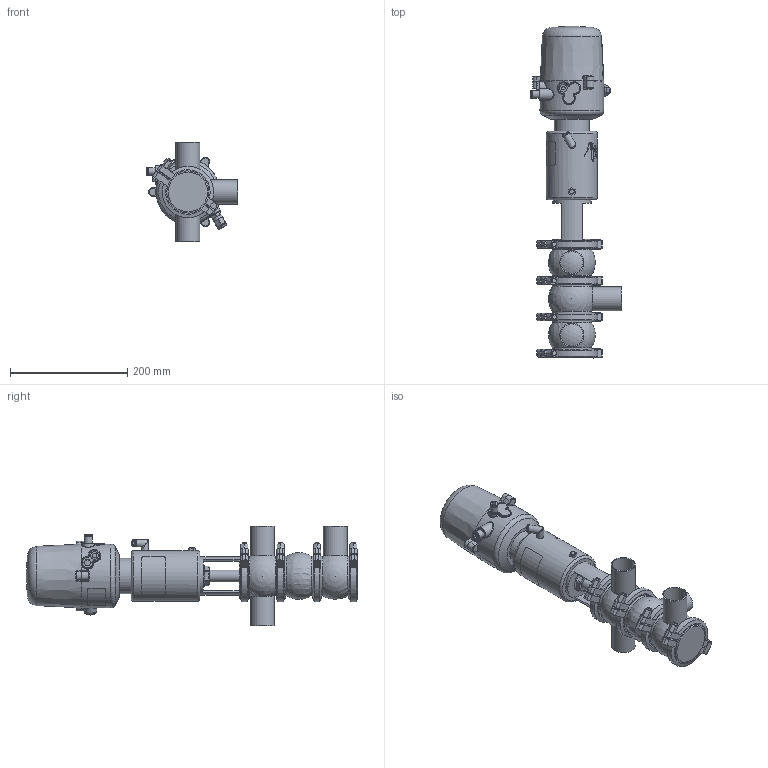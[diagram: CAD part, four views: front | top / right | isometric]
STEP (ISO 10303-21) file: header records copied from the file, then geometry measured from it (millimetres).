
FILE_DESCRIPTION (( 'STEP AP214' ), '1' );
FILE_NAME ('INNOVA L P W DIN 040 T1 AS NC & C-TOP S_10.241.16.0052.STEP', '2024-08-06T12:58:50', ( '' ), ( '' ), 'SwSTEP 2.0', 'SolidWorks 2023', '' );
FILE_SCHEMA (( 'AUTOMOTIVE_DESIGN' ));
Length unit declared in the file: millimetre
Products named in the file (9): 10.240.15.0007_DIN 040; 10.240.15.0010_DN 040; 10.240.15.0001_DN 040; 10.240.15.0006_DIN 040; 10.240.15.0017_Estàndard; 10.426.15.0001_C-TOP S - 1 EV; INNOVA L P W DIN 040 T1 AS NC & C-TOP S_10.241.16.0052; 10.240.15.0014_T1 AS P180; 10.241.15.0001_DIN 040
Assembly tree (12 placements, depth 2):
  INNOVA L P W DIN 040 T1 AS NC & C-TOP S_10.241.16.0052
    10.240.15.0007_DIN 040
    10.240.15.0006_DIN 040  x2
    10.240.15.0010_DN 040
    10.240.15.0014_T1 AS P180
    10.240.15.0017_Estàndard
    10.426.15.0001_C-TOP S - 1 EV
    10.240.15.0001_DN 040  x4
    10.241.15.0001_DIN 040
Bounding box: 156 x 567.07 x 170 mm (x, y, z)
Volume: 3251170.2 mm3; surface area: 372508.5 mm2
Topology: 13 solids, 13 shells, 1311 faces, 3189 edges, 2115 vertices
Faces by surface type: plane 478, cylinder 405, cone 221, bspline 160, torus 36, sphere 11
Full cylindrical faces by diameter (mm): 0.371 x17, 0.512 x16, 0.658 x16, 0.795 x16, 0.94 x15, 1.098 x15, 1.241 x13, 1.382 x13, 1.523 x11, 1.669 x10, 2.201 x1, 4 x2, 5.5 x2, 6 x2, 6.15 x1, 8 x10, 8.5 x1, 10 x1, 10.5 x1, 11 x2, 12.5 x3, 13 x2, 13.5 x2, 16 x1, 17 x3, 20 x3, 20.5 x1, 22 x2, 31 x1, 34.5 x3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
Entity records: 57023 total; most frequent: CARTESIAN_POINT 26677, ORIENTED_EDGE 4516, DIRECTION 3677, EDGE_CURVE 2258, VERTEX_POINT 1609, EDGE_LOOP 1579, AXIS2_PLACEMENT_3D 1510, FACE_OUTER_BOUND 1339
